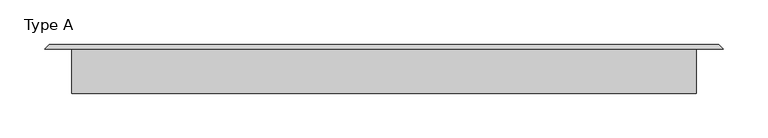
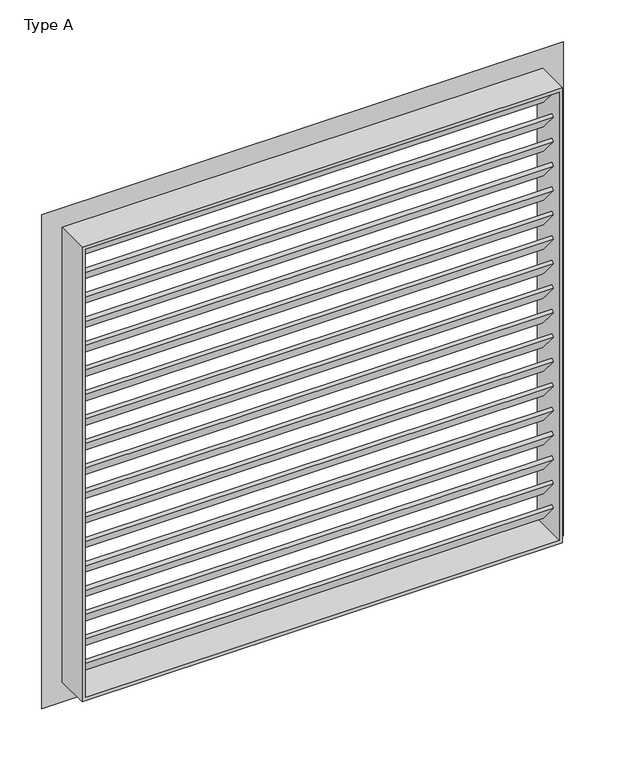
"""IFC4 building model written with IfcOpenShell, lengths in millimetres: proxy geometry, Grille d'aération - Mur : Type A."""

from ifc_helpers import new_model, si_unit, frame, origin, place, context, project, spatial, polyline, outline, extrude, faceted_brep, source, transform, mapped, element, save


def type_a_d892137f(model_context):
    return source(origin(), model_context, "Body", "SolidModel", [
        extrude(outline(polyline([(0.0, -5.0), (0.0, 0.0), (690.0, 0.0), (690.0, -5.0), (0.0, -5.0)])), frame((470.0, 10.0, 2052.6470588), z_axis=(0.0, -0.6427876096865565, 0.7660444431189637), x_axis=(-1.0, 0.0, 0.0)), (0.0, 0.0, 1.0), 40.0),
        extrude(outline(polyline([(0.0, -5.0), (0.0, 0.0), (690.0, 0.0), (690.0, -5.0), (0.0, -5.0)])), frame((470.0, 10.0, 2090.2941176), z_axis=(0.0, -0.6427876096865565, 0.7660444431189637), x_axis=(-1.0, 0.0, 0.0)), (0.0, 0.0, 1.0), 40.0),
        extrude(outline(polyline([(0.0, -5.0), (0.0, 0.0), (690.0, 0.0), (690.0, -5.0), (0.0, -5.0)])), frame((470.0, 10.0, 2127.9411765), z_axis=(0.0, -0.6427876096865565, 0.7660444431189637), x_axis=(-1.0, 0.0, 0.0)), (0.0, 0.0, 1.0), 40.0),
        extrude(outline(polyline([(0.0, -5.0), (0.0, 0.0), (690.0, 0.0), (690.0, -5.0), (0.0, -5.0)])), frame((470.0, 10.0, 2165.5882353), z_axis=(0.0, -0.6427876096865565, 0.7660444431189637), x_axis=(-1.0, 0.0, 0.0)), (0.0, 0.0, 1.0), 40.0),
        extrude(outline(polyline([(0.0, -5.0), (0.0, 0.0), (690.0, 0.0), (690.0, -5.0), (0.0, -5.0)])), frame((470.0, 10.0, 2203.2352941), z_axis=(0.0, -0.6427876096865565, 0.7660444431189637), x_axis=(-1.0, 0.0, 0.0)), (0.0, 0.0, 1.0), 40.0),
        extrude(outline(polyline([(0.0, -5.0), (0.0, 0.0), (690.0, 0.0), (690.0, -5.0), (0.0, -5.0)])), frame((470.0, 10.0, 2240.8823529), z_axis=(0.0, -0.6427876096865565, 0.7660444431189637), x_axis=(-1.0, 0.0, 0.0)), (0.0, 0.0, 1.0), 40.0),
        extrude(outline(polyline([(0.0, -5.0), (0.0, 0.0), (690.0, 0.0), (690.0, -5.0), (0.0, -5.0)])), frame((470.0, 10.0, 2278.5294118), z_axis=(0.0, -0.6427876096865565, 0.7660444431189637), x_axis=(-1.0, 0.0, 0.0)), (0.0, 0.0, 1.0), 40.0),
        extrude(outline(polyline([(0.0, -5.0), (0.0, 0.0), (690.0, 0.0), (690.0, -5.0), (0.0, -5.0)])), frame((470.0, 10.0, 2316.1764706), z_axis=(0.0, -0.6427876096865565, 0.7660444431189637), x_axis=(-1.0, 0.0, 0.0)), (0.0, 0.0, 1.0), 40.0),
        extrude(outline(polyline([(0.0, -5.0), (0.0, 0.0), (690.0, 0.0), (690.0, -5.0), (0.0, -5.0)])), frame((470.0, 10.0, 2353.8235294), z_axis=(0.0, -0.6427876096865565, 0.7660444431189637), x_axis=(-1.0, 0.0, 0.0)), (0.0, 0.0, 1.0), 40.0),
        extrude(outline(polyline([(0.0, -5.0), (0.0, 0.0), (690.0, 0.0), (690.0, -5.0), (0.0, -5.0)])), frame((470.0, 10.0, 2391.4705882), z_axis=(0.0, -0.6427876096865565, 0.7660444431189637), x_axis=(-1.0, 0.0, 0.0)), (0.0, 0.0, 1.0), 40.0),
        extrude(outline(polyline([(0.0, -5.0), (0.0, 0.0), (690.0, 0.0), (690.0, -5.0), (0.0, -5.0)])), frame((470.0, 10.0, 2429.1176471), z_axis=(0.0, -0.6427876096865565, 0.7660444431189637), x_axis=(-1.0, 0.0, 0.0)), (0.0, 0.0, 1.0), 40.0),
        extrude(outline(polyline([(0.0, -5.0), (0.0, 0.0), (690.0, 0.0), (690.0, -5.0), (0.0, -5.0)])), frame((470.0, 10.0, 2466.7647059), z_axis=(0.0, -0.6427876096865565, 0.7660444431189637), x_axis=(-1.0, 0.0, 0.0)), (0.0, 0.0, 1.0), 40.0),
        extrude(outline(polyline([(0.0, -5.0), (0.0, 0.0), (690.0, 0.0), (690.0, -5.0), (0.0, -5.0)])), frame((470.0, 10.0, 2504.4117647), z_axis=(0.0, -0.6427876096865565, 0.7660444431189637), x_axis=(-1.0, 0.0, 0.0)), (0.0, 0.0, 1.0), 40.0),
        extrude(outline(polyline([(0.0, -5.0), (0.0, 0.0), (690.0, 0.0), (690.0, -5.0), (0.0, -5.0)])), frame((470.0, 10.0, 2542.0588235), z_axis=(0.0, -0.6427876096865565, 0.7660444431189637), x_axis=(-1.0, 0.0, 0.0)), (0.0, 0.0, 1.0), 40.0),
        extrude(outline(polyline([(0.0, -5.0), (0.0, 0.0), (690.0, 0.0), (690.0, -5.0), (0.0, -5.0)])), frame((470.0, 10.0, 2579.7058824), z_axis=(0.0, -0.6427876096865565, 0.7660444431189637), x_axis=(-1.0, 0.0, 0.0)), (0.0, 0.0, 1.0), 40.0),
        extrude(outline(polyline([(0.0, -5.0), (0.0, 0.0), (690.0, 0.0), (690.0, -5.0), (0.0, -5.0)])), frame((470.0, 10.0, 2617.3529412), z_axis=(0.0, -0.6427876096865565, 0.7660444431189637), x_axis=(-1.0, 0.0, 0.0)), (0.0, 0.0, 1.0), 40.0),
        extrude(outline(polyline([(0.0, -5.0), (0.0, 0.0), (690.0, 0.0), (690.0, -5.0), (0.0, -5.0)])), frame((470.0, 10.0, 2015.0), z_axis=(0.0, -0.6427876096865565, 0.7660444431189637), x_axis=(-1.0, 0.0, 0.0)), (0.0, 0.0, 1.0), 40.0),
        extrude(outline(polyline([(0.0, -5.0), (0.0, 0.0), (690.0, 0.0), (690.0, -5.0), (0.0, -5.0)])), frame((470.0, 10.0, 2655.0), z_axis=(0.0, -0.6427876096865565, 0.7660444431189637), x_axis=(-1.0, 0.0, 0.0)), (0.0, 0.0, 1.0), 40.0),
        faceted_brep([(-225.0, -30.0, 2700.0), (-225.0, 20.0, 2700.0), (-225.0, 20.0, 2000.0), (-225.0, -30.0, 2000.0), (-220.0, 25.0, 2695.0), (-220.0, -30.0, 2695.0), (-220.0, -30.0, 2005.0), (-220.0, 25.0, 2005.0), (-255.284753, 20.0, 2730.284753), (-250.284753, 25.0, 2725.284753), (-250.284753, 25.0, 1974.715247), (-255.284753, 20.0, 1969.715247), (475.0, 20.0, 2000.0), (475.0, -30.0, 2000.0), (470.0, -30.0, 2005.0), (470.0, 25.0, 2005.0), (500.284753, 25.0, 1974.715247), (505.284753, 20.0, 1969.715247), (475.0, 20.0, 2700.0), (475.0, -30.0, 2700.0), (470.0, -30.0, 2695.0), (470.0, 25.0, 2695.0), (500.284753, 25.0, 2725.284753), (505.284753, 20.0, 2730.284753)], [[[0, 1, 2, 3]], [[4, 5, 6, 7]], [[8, 9, 10, 11]], [[3, 2, 12, 13]], [[7, 6, 14, 15]], [[11, 10, 16, 17]], [[13, 12, 18, 19]], [[15, 14, 20, 21]], [[17, 16, 22, 23]], [[19, 18, 1, 0]], [[3, 13, 19, 0], [5, 20, 14, 6]], [[21, 20, 5, 4]], [[9, 22, 16, 10], [7, 15, 21, 4]], [[23, 22, 9, 8]], [[11, 17, 23, 8], [1, 18, 12, 2]]]),
    ])


if __name__ == "__main__":
    model = new_model("IFC4")
    model_context = context("Model", 3, world=origin())
    ifc_project = project(units=[si_unit("LENGTHUNIT", "METRE", prefix="MILLI")], contexts=[model_context])
    site = spatial("IfcSite", under=ifc_project)
    building = spatial("IfcBuilding", under=site)
    placement = place(None, origin())
    type_a_shape = type_a_d892137f(model_context)
    element("IfcBuildingElementProxy", 1, Name="Grille d'aération - Mur : Type A", ObjectType="Grille d'aération - Mur : Type A", at=placement, inside=building, context=model_context, shape_type="MappedRepresentation", body=[
        mapped(type_a_shape, transform((0.0, 0.0, 0.0), x_axis=(1.0, 0.0, 0.0), y_axis=(0.0, 1.0, 0.0), z_axis=(0.0, 0.0, 1.0))),
    ])
    save(model, "model.ifc")
